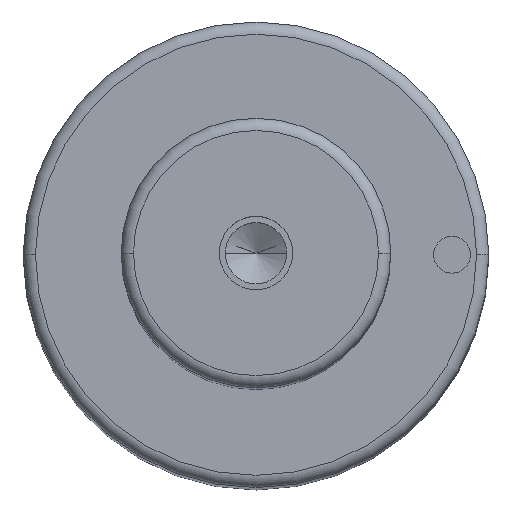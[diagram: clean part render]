
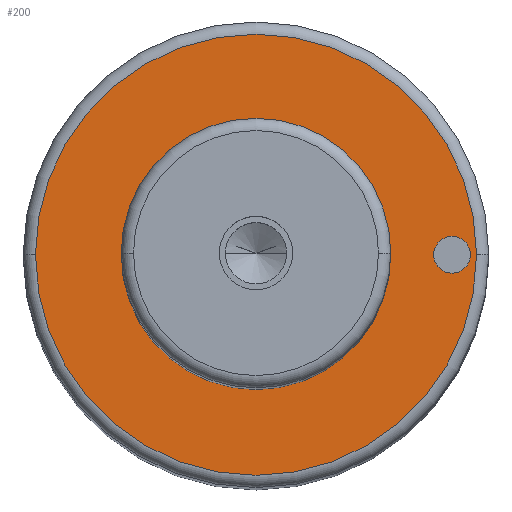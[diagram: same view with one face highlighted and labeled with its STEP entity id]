
A CAD part, top view. The second image highlights one B-rep face of the part: STEP entity #200.
In plain terms, the highlighted planar face has unit normal (0, 0, 1).
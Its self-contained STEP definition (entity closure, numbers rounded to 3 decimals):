
#99=PLANE('',#596);
#107=FACE_BOUND('',#265,.T.);
#108=FACE_BOUND('',#266,.T.);
#109=FACE_BOUND('',#267,.T.);
#200=ADVANCED_FACE('',(#107,#108,#109),#99,.T.);
#265=EDGE_LOOP('',(#359,#360));
#266=EDGE_LOOP('',(#361,#362));
#267=EDGE_LOOP('',(#363,#364));
#359=ORIENTED_EDGE('',*,*,#460,.F.);
#360=ORIENTED_EDGE('',*,*,#461,.F.);
#361=ORIENTED_EDGE('',*,*,#485,.F.);
#362=ORIENTED_EDGE('',*,*,#486,.F.);
#363=ORIENTED_EDGE('',*,*,#456,.T.);
#364=ORIENTED_EDGE('',*,*,#454,.T.);
#411=VERTEX_POINT('',#808);
#412=VERTEX_POINT('',#810);
#413=VERTEX_POINT('',#816);
#416=VERTEX_POINT('',#821);
#430=VERTEX_POINT('',#875);
#431=VERTEX_POINT('',#876);
#454=EDGE_CURVE('',#412,#411,#513,.T.);
#456=EDGE_CURVE('',#411,#412,#514,.T.);
#460=EDGE_CURVE('',#416,#413,#518,.T.);
#461=EDGE_CURVE('',#413,#416,#519,.T.);
#485=EDGE_CURVE('',#430,#431,#533,.T.);
#486=EDGE_CURVE('',#431,#430,#534,.T.);
#513=CIRCLE('',#558,11.);
#514=CIRCLE('',#560,11.);
#518=CIRCLE('',#565,18.);
#519=CIRCLE('',#567,18.);
#533=CIRCLE('',#594,1.5);
#534=CIRCLE('',#595,1.5);
#558=AXIS2_PLACEMENT_3D('',#809,#647,#648);
#560=AXIS2_PLACEMENT_3D('',#813,#652,#653);
#565=AXIS2_PLACEMENT_3D('',#822,#662,#663);
#567=AXIS2_PLACEMENT_3D('',#824,#666,#667);
#594=AXIS2_PLACEMENT_3D('',#874,#730,#731);
#595=AXIS2_PLACEMENT_3D('',#877,#732,#733);
#596=AXIS2_PLACEMENT_3D('',#878,#734,#735);
#647=DIRECTION('',(0.,0.,-1.));
#648=DIRECTION('',(0.,1.,0.));
#652=DIRECTION('',(0.,0.,-1.));
#653=DIRECTION('',(0.,-1.,0.));
#662=DIRECTION('',(0.,0.,-1.));
#663=DIRECTION('',(0.,1.,0.));
#666=DIRECTION('',(0.,0.,-1.));
#667=DIRECTION('',(0.,-1.,0.));
#730=DIRECTION('',(0.,0.,1.));
#731=DIRECTION('',(0.,1.,0.));
#732=DIRECTION('',(0.,0.,1.));
#733=DIRECTION('',(0.,-1.,0.));
#734=DIRECTION('',(0.,0.,1.));
#735=DIRECTION('',(0.,-1.,0.));
#808=CARTESIAN_POINT('',(-11.,0.,114.));
#809=CARTESIAN_POINT('',(0.,0.,114.));
#810=CARTESIAN_POINT('',(11.,0.,114.));
#813=CARTESIAN_POINT('',(0.,0.,114.));
#816=CARTESIAN_POINT('',(-18.,0.,114.));
#821=CARTESIAN_POINT('',(18.,0.,114.));
#822=CARTESIAN_POINT('',(0.,0.,114.));
#824=CARTESIAN_POINT('',(0.,0.,114.));
#874=CARTESIAN_POINT('',(16.,0.,114.));
#875=CARTESIAN_POINT('',(14.5,0.,114.));
#876=CARTESIAN_POINT('',(17.5,0.,114.));
#877=CARTESIAN_POINT('',(16.,0.,114.));
#878=CARTESIAN_POINT('',(0.,0.,114.));
